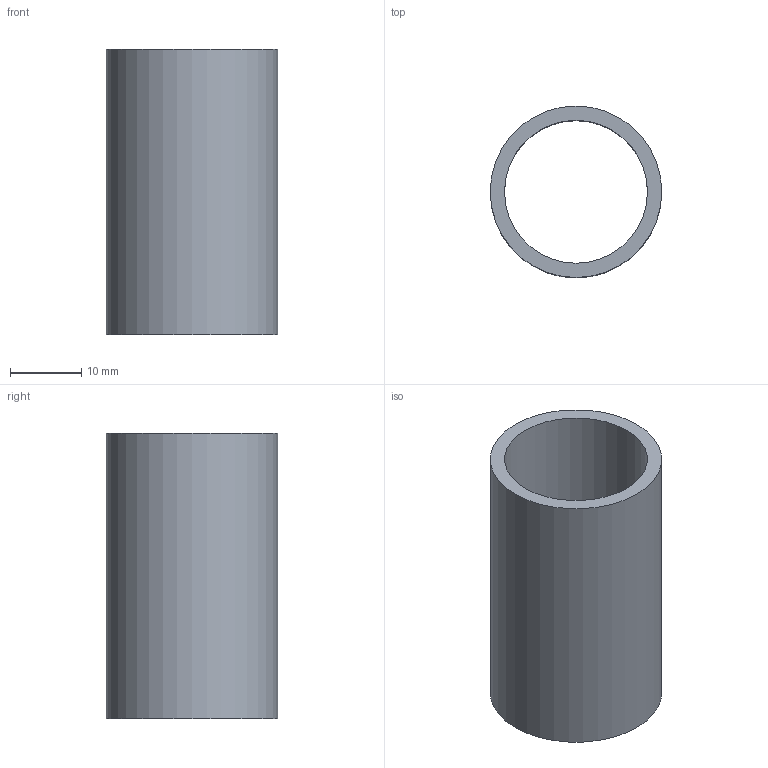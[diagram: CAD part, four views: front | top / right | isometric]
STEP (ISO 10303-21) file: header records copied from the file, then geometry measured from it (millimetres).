
FILE_DESCRIPTION(('Open CASCADE Model'),'2;1');
FILE_NAME('Open CASCADE Shape Model','2026-10-16T18:52:00',('Author'),( 'Open CASCADE'),'Open CASCADE STEP processor 7.8','Open CASCADE 7.8' ,'Unknown');
FILE_SCHEMA(('AUTOMOTIVE_DESIGN { 1 0 10303 214 1 1 1 1 }'));
Length unit declared in the file: millimetre
Products named in the file (1): Open CASCADE STEP translator 7.8 59
Bounding box: 24 x 24 x 40 mm (x, y, z)
Volume: 5529.2 mm3; surface area: 5805.7 mm2
Topology: 1 solids, 1 shells, 4 faces, 6 edges, 4 vertices
Faces by surface type: cylinder 2, plane 2
Full cylindrical faces by diameter (mm): 20 x1, 24 x1
Entity records: 192 total; most frequent: CARTESIAN_POINT 39, DIRECTION 30, ORIENTED_EDGE 12, PCURVE 12, DEFINITIONAL_REPRESENTATION 12, LINE 10, VECTOR 10, AXIS2_PLACEMENT_3D 9
